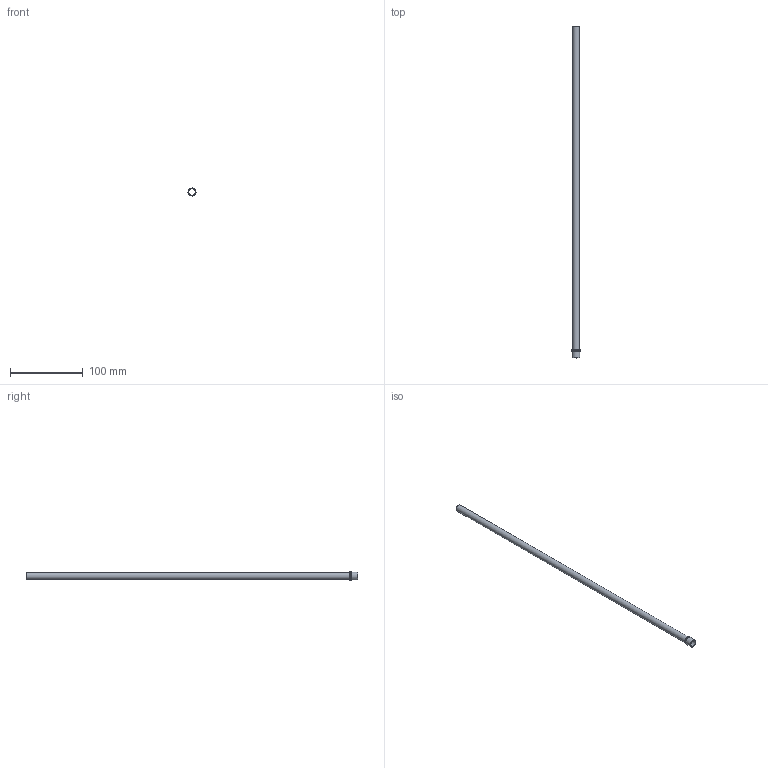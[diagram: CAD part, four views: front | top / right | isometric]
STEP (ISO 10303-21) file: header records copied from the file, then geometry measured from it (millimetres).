
FILE_DESCRIPTION(/* description */ (''),/* implementation_level */ '2;1');
FILE_NAME(/* name */ 'C:/Users/drich/Desktop/HF375T-18 v1.step',/* time_stamp */ '2019-12-30T13:30:34-06:00',/* author */ (''),/* organization */ (''),/* preprocessor_version */ 'ST-DEVELOPER v18',/* originating_system */ 'Autodesk Translation Framework v8.12.0.6',/* authorisation */ '');
FILE_SCHEMA (('AUTOMOTIVE_DESIGN { 1 0 10303 214 3 1 1 }'));
Length unit declared in the file: inch
Products named in the file (1): HF375T-18
Bounding box: 11.15 x 457.2 x 11.15 mm (x, y, z)
Volume: 4388.6 mm3; surface area: 25844.6 mm2
Topology: 1 solids, 1 shells, 12 faces, 30 edges, 22 vertices
Faces by surface type: plane 4, cylinder 4, torus 3, cone 1
Full cylindrical faces by diameter (mm): 8.636 x1, 9.271 x1, 10.978 x1, 11.151 x1
Entity records: 426 total; most frequent: DIRECTION 81, CARTESIAN_POINT 65, ORIENTED_EDGE 60, AXIS2_PLACEMENT_3D 38, EDGE_CURVE 30, CIRCLE 25, VERTEX_POINT 22, EDGE_LOOP 16
